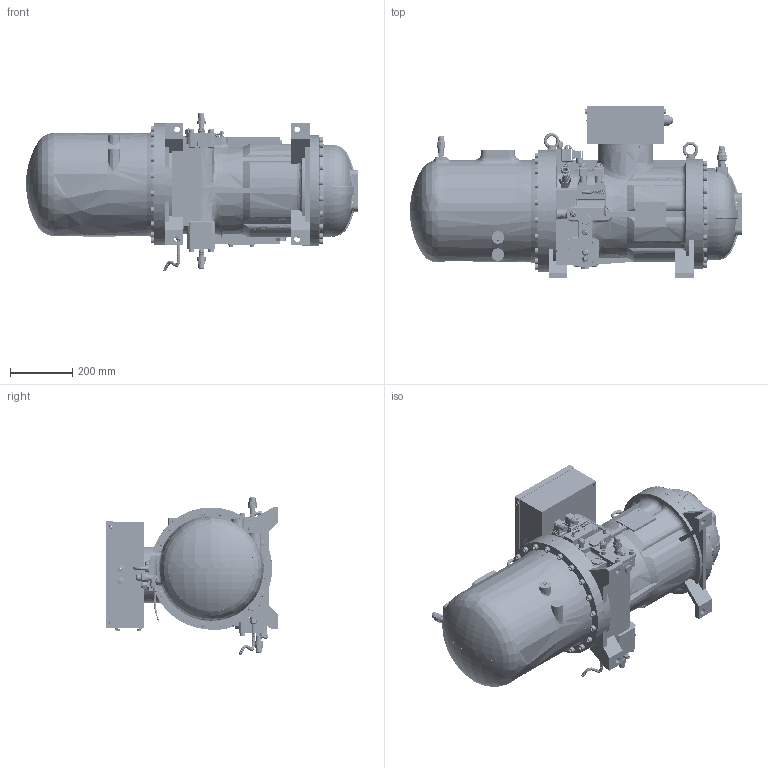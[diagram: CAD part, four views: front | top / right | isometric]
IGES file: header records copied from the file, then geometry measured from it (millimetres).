
Global section: file name: RC2-180A&B outline; native system: Autodesk Inventor 2017; preprocessor: unknown; author: hedylu; date: 20170626.101859; units: millimetre
Bounding box: 1067.28 x 553.1 x 510.44 mm (x, y, z)
Surface area: 2588498.8 mm2 (no closed solid volume)
Topology: 0 solids, 0 shells, 2703 faces, 27683 edges, 27666 vertices
Faces by surface type: bspline 1389, revolution 1314
